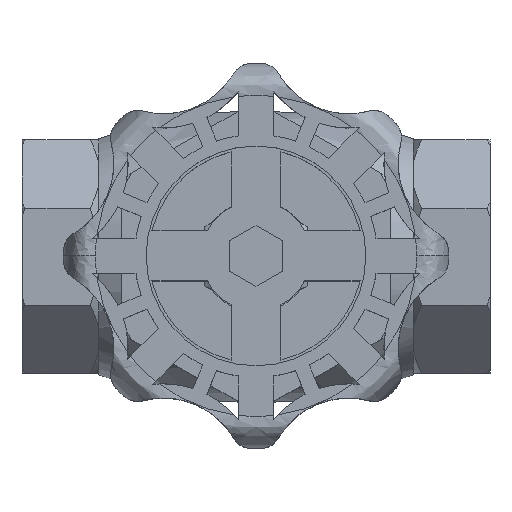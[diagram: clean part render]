
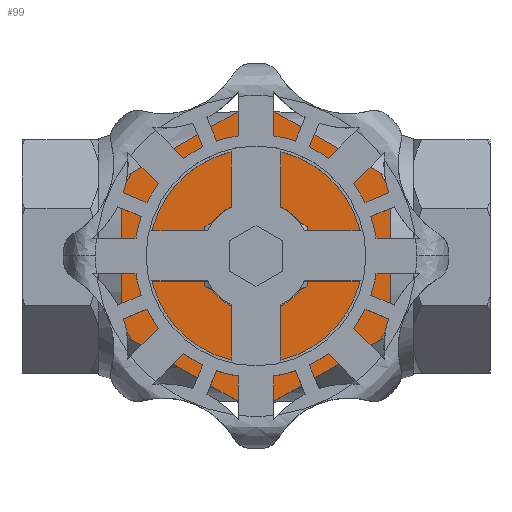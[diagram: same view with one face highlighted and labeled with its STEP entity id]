
A CAD part, top view. The second image highlights one B-rep face of the part: STEP entity #99.
In plain terms, the highlighted planar face has unit normal (0, 0, 1).
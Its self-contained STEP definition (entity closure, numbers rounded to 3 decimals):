
#99=ADVANCED_FACE('',(#921,#922),#920,.T.);
#920=PLANE('',#3342);
#921=FACE_OUTER_BOUND('',#3343,.T.);
#922=FACE_BOUND('',#3344,.T.);
#3339=CARTESIAN_POINT('',(-55.2,-61.25,88.5));
#3340=DIRECTION('',(0.,0.,1.));
#3341=DIRECTION('',(1.,0.,0.));
#3342=AXIS2_PLACEMENT_3D('',#3339,#3340,#3341);
#3343=EDGE_LOOP('',(#5179,#5180,#5181,#5182,#5183,#5184,#5185,#5186,#5187,#5188,#5189,#5190));
#3344=EDGE_LOOP('',(#5191,#5192));
#5179=ORIENTED_EDGE('',*,*,#6593,.F.);
#5180=ORIENTED_EDGE('',*,*,#6564,.T.);
#5181=ORIENTED_EDGE('',*,*,#6596,.F.);
#5182=ORIENTED_EDGE('',*,*,#6459,.T.);
#5183=ORIENTED_EDGE('',*,*,#6595,.F.);
#5184=ORIENTED_EDGE('',*,*,#6597,.T.);
#5185=ORIENTED_EDGE('',*,*,#6589,.F.);
#5186=ORIENTED_EDGE('',*,*,#6581,.T.);
#5187=ORIENTED_EDGE('',*,*,#6587,.F.);
#5188=ORIENTED_EDGE('',*,*,#6574,.T.);
#5189=ORIENTED_EDGE('',*,*,#6591,.F.);
#5190=ORIENTED_EDGE('',*,*,#6598,.T.);
#5191=ORIENTED_EDGE('',*,*,#6599,.T.);
#5192=ORIENTED_EDGE('',*,*,#6600,.T.);
#6459=EDGE_CURVE('',#8792,#8785,#8793,.T.);
#6564=EDGE_CURVE('',#9497,#9490,#9498,.T.);
#6574=EDGE_CURVE('',#9566,#9559,#9567,.T.);
#6581=EDGE_CURVE('',#9614,#9607,#9615,.T.);
#6587=EDGE_CURVE('',#9566,#9607,#9655,.T.);
#6589=EDGE_CURVE('',#9614,#9661,#9668,.T.);
#6591=EDGE_CURVE('',#9674,#9559,#9681,.T.);
#6593=EDGE_CURVE('',#9497,#9687,#9694,.T.);
#6595=EDGE_CURVE('',#9700,#8785,#9707,.T.);
#6596=EDGE_CURVE('',#8792,#9490,#9713,.T.);
#6597=EDGE_CURVE('',#9700,#9661,#9719,.T.);
#6598=EDGE_CURVE('',#9674,#9687,#9725,.T.);
#6599=EDGE_CURVE('',#9731,#9732,#9733,.T.);
#6600=EDGE_CURVE('',#9732,#9731,#9739,.T.);
#8785=VERTEX_POINT('',#13442);
#8792=VERTEX_POINT('',#13447);
#8793=LINE('',#13448,#13449);
#9490=VERTEX_POINT('',#13930);
#9497=VERTEX_POINT('',#13935);
#9498=LINE('',#13936,#13937);
#9559=VERTEX_POINT('',#13975);
#9566=VERTEX_POINT('',#13980);
#9567=LINE('',#13981,#13982);
#9607=VERTEX_POINT('',#14006);
#9614=VERTEX_POINT('',#14011);
#9615=LINE('',#14012,#14013);
#9655=CIRCLE('',#14040,51.116);
#9661=VERTEX_POINT('',#14041);
#9668=CIRCLE('',#14049,51.116);
#9674=VERTEX_POINT('',#14050);
#9681=CIRCLE('',#14058,51.116);
#9687=VERTEX_POINT('',#14059);
#9694=CIRCLE('',#14067,51.116);
#9700=VERTEX_POINT('',#14068);
#9707=CIRCLE('',#14076,51.116);
#9713=CIRCLE('',#14080,51.116);
#9719=LINE('',#14081,#14082);
#9725=LINE('',#14084,#14085);
#9731=VERTEX_POINT('',#14087);
#9732=VERTEX_POINT('',#14088);
#9733=CIRCLE('',#14092,19.);
#9739=CIRCLE('',#14096,19.);
#13442=CARTESIAN_POINT('',(46.,22.291,88.5));
#13447=CARTESIAN_POINT('',(46.,-22.291,88.5));
#13448=CARTESIAN_POINT('',(46.,-22.291,88.5));
#13449=VECTOR('',#13450,44.581);
#13450=DIRECTION('',(0.,1.,0.));
#13930=CARTESIAN_POINT('',(42.304,-28.692,88.5));
#13935=CARTESIAN_POINT('',(3.696,-50.982,88.5));
#13936=CARTESIAN_POINT('',(3.696,-50.982,88.5));
#13937=VECTOR('',#13938,44.581);
#13938=DIRECTION('',(0.866,0.5,0.));
#13975=CARTESIAN_POINT('',(-46.,-22.291,88.5));
#13980=CARTESIAN_POINT('',(-46.,22.291,88.5));
#13981=CARTESIAN_POINT('',(-46.,22.291,88.5));
#13982=VECTOR('',#13983,44.581);
#13983=DIRECTION('',(0.,-1.,0.));
#14006=CARTESIAN_POINT('',(-42.304,28.692,88.5));
#14011=CARTESIAN_POINT('',(-3.696,50.982,88.5));
#14012=CARTESIAN_POINT('',(-3.696,50.982,88.5));
#14013=VECTOR('',#14014,44.581);
#14014=DIRECTION('',(-0.866,-0.5,0.));
#14037=CARTESIAN_POINT('',(0.,0.,88.5));
#14038=DIRECTION('',(0.,0.,-1.));
#14039=DIRECTION('',(1.,0.,0.));
#14040=AXIS2_PLACEMENT_3D('',#14037,#14038,#14039);
#14041=CARTESIAN_POINT('',(3.696,50.982,88.5));
#14046=CARTESIAN_POINT('',(0.,0.,88.5));
#14047=DIRECTION('',(0.,0.,-1.));
#14048=DIRECTION('',(1.,0.,0.));
#14049=AXIS2_PLACEMENT_3D('',#14046,#14047,#14048);
#14050=CARTESIAN_POINT('',(-42.304,-28.692,88.5));
#14055=CARTESIAN_POINT('',(0.,0.,88.5));
#14056=DIRECTION('',(0.,0.,-1.));
#14057=DIRECTION('',(1.,0.,0.));
#14058=AXIS2_PLACEMENT_3D('',#14055,#14056,#14057);
#14059=CARTESIAN_POINT('',(-3.696,-50.982,88.5));
#14064=CARTESIAN_POINT('',(0.,0.,88.5));
#14065=DIRECTION('',(0.,0.,-1.));
#14066=DIRECTION('',(1.,0.,0.));
#14067=AXIS2_PLACEMENT_3D('',#14064,#14065,#14066);
#14068=CARTESIAN_POINT('',(42.304,28.692,88.5));
#14073=CARTESIAN_POINT('',(0.,0.,88.5));
#14074=DIRECTION('',(0.,0.,-1.));
#14075=DIRECTION('',(1.,0.,0.));
#14076=AXIS2_PLACEMENT_3D('',#14073,#14074,#14075);
#14077=CARTESIAN_POINT('',(0.,0.,88.5));
#14078=DIRECTION('',(0.,0.,-1.));
#14079=DIRECTION('',(1.,0.,0.));
#14080=AXIS2_PLACEMENT_3D('',#14077,#14078,#14079);
#14081=CARTESIAN_POINT('',(42.304,28.692,88.5));
#14082=VECTOR('',#14083,44.581);
#14083=DIRECTION('',(-0.866,0.5,0.));
#14084=CARTESIAN_POINT('',(-42.304,-28.692,88.5));
#14085=VECTOR('',#14086,44.581);
#14086=DIRECTION('',(0.866,-0.5,0.));
#14087=CARTESIAN_POINT('',(-19.,0.,88.5));
#14088=CARTESIAN_POINT('',(19.,0.,88.5));
#14089=CARTESIAN_POINT('',(0.,0.,88.5));
#14090=DIRECTION('',(0.,0.,-1.));
#14091=DIRECTION('',(-1.,0.,0.));
#14092=AXIS2_PLACEMENT_3D('',#14089,#14090,#14091);
#14093=CARTESIAN_POINT('',(0.,0.,88.5));
#14094=DIRECTION('',(0.,0.,-1.));
#14095=DIRECTION('',(-1.,0.,0.));
#14096=AXIS2_PLACEMENT_3D('',#14093,#14094,#14095);
